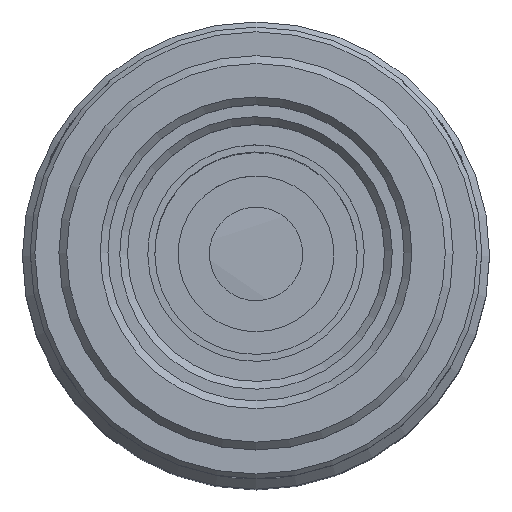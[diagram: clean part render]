
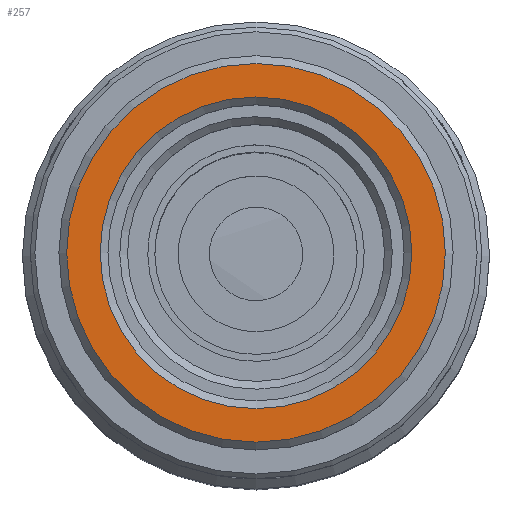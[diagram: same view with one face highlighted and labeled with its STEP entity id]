
A CAD part, top view. The second image highlights one B-rep face of the part: STEP entity #257.
In plain terms, the highlighted planar face has unit normal (0, 0, 1).
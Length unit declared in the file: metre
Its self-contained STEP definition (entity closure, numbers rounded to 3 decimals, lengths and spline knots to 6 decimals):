
#257=ADVANCED_FACE('NONE',(#660,#661),#662,.F.);
#660=FACE_BOUND('',#1316,.T.);
#661=FACE_OUTER_BOUND('',#1317,.T.);
#662=PLANE('',#1318);
#1316=EDGE_LOOP('',(#2051));
#1317=EDGE_LOOP('',(#2052));
#1318=AXIS2_PLACEMENT_3D('',#2053,#2054,#2055);
#2051=ORIENTED_EDGE('',*,*,#3080,.T.);
#2052=ORIENTED_EDGE('',*,*,#3100,.T.);
#2053=CARTESIAN_POINT('',(0.,0.01266,0.0));
#2054=DIRECTION('',(0.,0.0,-1.0));
#2055=DIRECTION('',(-1.0,0.0,0.));
#3080=EDGE_CURVE('NONE',#3522,#3522,#3523,.T.);
#3100=EDGE_CURVE('NONE',#3555,#3555,#3556,.T.);
#3522=VERTEX_POINT('',#4365);
#3523=CIRCLE('',#4366,0.01001);
#3555=VERTEX_POINT('',#4404);
#3556=CIRCLE('',#4405,0.01216);
#4365=CARTESIAN_POINT('',(-0.01001,0.0,0.));
#4366=AXIS2_PLACEMENT_3D('',#5280,#5281,#5282);
#4404=CARTESIAN_POINT('',(-0.01216,0.0,0.));
#4405=AXIS2_PLACEMENT_3D('',#5307,#5308,#5309);
#5280=CARTESIAN_POINT('',(0.,0.0,0.0));
#5281=DIRECTION('',(0.,0.0,-1.0));
#5282=DIRECTION('',(-1.0,0.0,0.));
#5307=CARTESIAN_POINT('',(0.,0.0,0.0));
#5308=DIRECTION('',(0.,0.0,1.0));
#5309=DIRECTION('',(-1.0,0.0,0.));
